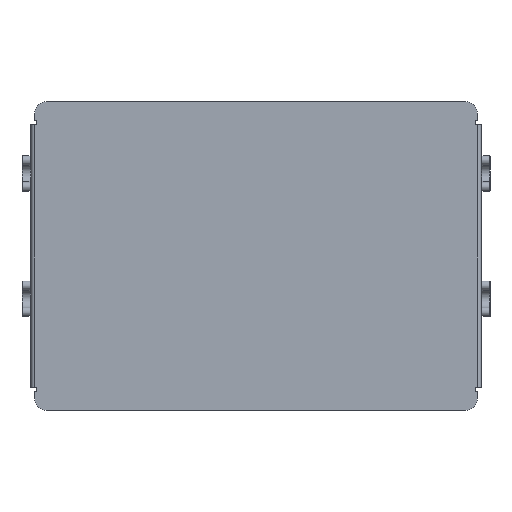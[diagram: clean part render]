
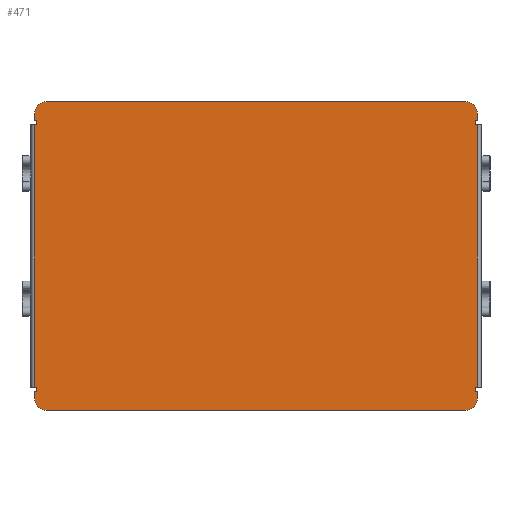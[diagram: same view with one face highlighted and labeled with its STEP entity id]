
A CAD part, top view. The second image highlights one B-rep face of the part: STEP entity #471.
In plain terms, the highlighted planar face has unit normal (0, 0, 1).
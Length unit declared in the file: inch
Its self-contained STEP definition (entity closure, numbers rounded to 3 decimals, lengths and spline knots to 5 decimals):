
#241=CARTESIAN_POINT('',(-4.613,0.0,0.09));
#242=VERTEX_POINT('',#241);
#243=CARTESIAN_POINT('',(-4.863,0.25,0.09));
#244=VERTEX_POINT('',#243);
#245=CARTESIAN_POINT('',(-4.613,0.25,0.09));
#246=DIRECTION('',(0.0,0.0,-1.));
#247=DIRECTION('',(-0.707,-0.707,0.0));
#248=AXIS2_PLACEMENT_3D('',#245,#246,#247);
#249=CIRCLE('',#248,0.25);
#250=EDGE_CURVE('',#242,#244,#249,.T.);
#278=CARTESIAN_POINT('',(0.,3.3875,0.09));
#279=DIRECTION('',(0.0,0.0,1.0));
#280=DIRECTION('',(1.0,0.0,0.0));
#281=AXIS2_PLACEMENT_3D('',#278,#279,#280);
#282=PLANE('',#281);
#283=ORIENTED_EDGE('',*,*,#250,.F.);
#284=CARTESIAN_POINT('',(4.613,0.0,0.09));
#285=VERTEX_POINT('',#284);
#286=CARTESIAN_POINT('',(4.613,0.0,0.09));
#287=DIRECTION('',(-1.0,0.0,0.0));
#288=VECTOR('',#287,9.226);
#289=LINE('',#286,#288);
#290=EDGE_CURVE('',#285,#242,#289,.T.);
#291=ORIENTED_EDGE('',*,*,#290,.F.);
#292=CARTESIAN_POINT('',(4.863,0.25,0.09));
#293=VERTEX_POINT('',#292);
#294=CARTESIAN_POINT('',(4.613,0.25,0.09));
#295=DIRECTION('',(0.0,0.0,-1.));
#296=DIRECTION('',(0.707,-0.707,0.0));
#297=AXIS2_PLACEMENT_3D('',#294,#295,#296);
#298=CIRCLE('',#297,0.25);
#299=EDGE_CURVE('',#293,#285,#298,.T.);
#300=ORIENTED_EDGE('',*,*,#299,.F.);
#301=CARTESIAN_POINT('',(4.863,0.41,0.09));
#302=VERTEX_POINT('',#301);
#303=CARTESIAN_POINT('',(4.863,0.41,0.09));
#304=DIRECTION('',(0.0,-1.0,0.0));
#305=VECTOR('',#304,0.16);
#306=LINE('',#303,#305);
#307=EDGE_CURVE('',#302,#293,#306,.T.);
#308=ORIENTED_EDGE('',*,*,#307,.F.);
#309=CARTESIAN_POINT('',(4.817,0.41,0.09));
#310=VERTEX_POINT('',#309);
#311=CARTESIAN_POINT('',(4.863,0.41,0.09));
#312=DIRECTION('',(-1.0,0.0,0.0));
#313=VECTOR('',#312,0.046);
#314=LINE('',#311,#313);
#315=EDGE_CURVE('',#302,#310,#314,.T.);
#316=ORIENTED_EDGE('',*,*,#315,.T.);
#317=CARTESIAN_POINT('',(4.817,0.5,0.09));
#318=VERTEX_POINT('',#317);
#319=CARTESIAN_POINT('',(4.817,0.41,0.09));
#320=DIRECTION('',(0.0,1.0,0.0));
#321=VECTOR('',#320,0.09);
#322=LINE('',#319,#321);
#323=EDGE_CURVE('',#310,#318,#322,.T.);
#324=ORIENTED_EDGE('',*,*,#323,.T.);
#325=CARTESIAN_POINT('',(4.862,0.5,0.09));
#326=VERTEX_POINT('',#325);
#327=CARTESIAN_POINT('',(4.817,0.5,0.09));
#328=DIRECTION('',(1.0,0.0,0.0));
#329=VECTOR('',#328,0.045);
#330=LINE('',#327,#329);
#331=EDGE_CURVE('',#318,#326,#330,.T.);
#332=ORIENTED_EDGE('',*,*,#331,.T.);
#333=CARTESIAN_POINT('',(4.862,6.275,0.09));
#334=VERTEX_POINT('',#333);
#335=CARTESIAN_POINT('',(4.862,0.5,0.09));
#336=DIRECTION('',(0.0,1.0,0.0));
#337=VECTOR('',#336,5.775);
#338=LINE('',#335,#337);
#339=EDGE_CURVE('',#326,#334,#338,.T.);
#340=ORIENTED_EDGE('',*,*,#339,.T.);
#341=CARTESIAN_POINT('',(4.817,6.275,0.09));
#342=VERTEX_POINT('',#341);
#343=CARTESIAN_POINT('',(4.862,6.275,0.09));
#344=DIRECTION('',(-1.0,0.0,0.0));
#345=VECTOR('',#344,0.045);
#346=LINE('',#343,#345);
#347=EDGE_CURVE('',#334,#342,#346,.T.);
#348=ORIENTED_EDGE('',*,*,#347,.T.);
#349=CARTESIAN_POINT('',(4.817,6.365,0.09));
#350=VERTEX_POINT('',#349);
#351=CARTESIAN_POINT('',(4.817,6.275,0.09));
#352=DIRECTION('',(0.0,1.0,0.0));
#353=VECTOR('',#352,0.09);
#354=LINE('',#351,#353);
#355=EDGE_CURVE('',#342,#350,#354,.T.);
#356=ORIENTED_EDGE('',*,*,#355,.T.);
#357=CARTESIAN_POINT('',(4.863,6.365,0.09));
#358=VERTEX_POINT('',#357);
#359=CARTESIAN_POINT('',(4.817,6.365,0.09));
#360=DIRECTION('',(1.0,0.0,0.0));
#361=VECTOR('',#360,0.046);
#362=LINE('',#359,#361);
#363=EDGE_CURVE('',#350,#358,#362,.T.);
#364=ORIENTED_EDGE('',*,*,#363,.T.);
#365=CARTESIAN_POINT('',(4.863,6.525,0.09));
#366=VERTEX_POINT('',#365);
#367=CARTESIAN_POINT('',(4.863,6.525,0.09));
#368=DIRECTION('',(0.0,-1.0,0.0));
#369=VECTOR('',#368,0.16);
#370=LINE('',#367,#369);
#371=EDGE_CURVE('',#366,#358,#370,.T.);
#372=ORIENTED_EDGE('',*,*,#371,.F.);
#373=CARTESIAN_POINT('',(4.613,6.775,0.09));
#374=VERTEX_POINT('',#373);
#375=CARTESIAN_POINT('',(4.613,6.525,0.09));
#376=DIRECTION('',(0.0,0.0,-1.));
#377=DIRECTION('',(0.707,0.707,0.0));
#378=AXIS2_PLACEMENT_3D('',#375,#376,#377);
#379=CIRCLE('',#378,0.25);
#380=EDGE_CURVE('',#374,#366,#379,.T.);
#381=ORIENTED_EDGE('',*,*,#380,.F.);
#382=CARTESIAN_POINT('',(-4.613,6.775,0.09));
#383=VERTEX_POINT('',#382);
#384=CARTESIAN_POINT('',(-4.613,6.775,0.09));
#385=DIRECTION('',(1.0,0.0,0.0));
#386=VECTOR('',#385,9.226);
#387=LINE('',#384,#386);
#388=EDGE_CURVE('',#383,#374,#387,.T.);
#389=ORIENTED_EDGE('',*,*,#388,.F.);
#390=CARTESIAN_POINT('',(-4.863,6.525,0.09));
#391=VERTEX_POINT('',#390);
#392=CARTESIAN_POINT('',(-4.613,6.525,0.09));
#393=DIRECTION('',(0.0,0.0,-1.));
#394=DIRECTION('',(-0.707,0.707,0.0));
#395=AXIS2_PLACEMENT_3D('',#392,#393,#394);
#396=CIRCLE('',#395,0.25);
#397=EDGE_CURVE('',#391,#383,#396,.T.);
#398=ORIENTED_EDGE('',*,*,#397,.F.);
#399=CARTESIAN_POINT('',(-4.863,6.365,0.09));
#400=VERTEX_POINT('',#399);
#401=CARTESIAN_POINT('',(-4.863,6.365,0.09));
#402=DIRECTION('',(0.0,1.0,0.0));
#403=VECTOR('',#402,0.16);
#404=LINE('',#401,#403);
#405=EDGE_CURVE('',#400,#391,#404,.T.);
#406=ORIENTED_EDGE('',*,*,#405,.F.);
#407=CARTESIAN_POINT('',(-4.817,6.365,0.09));
#408=VERTEX_POINT('',#407);
#409=CARTESIAN_POINT('',(-4.863,6.365,0.09));
#410=DIRECTION('',(1.0,0.0,0.0));
#411=VECTOR('',#410,0.046);
#412=LINE('',#409,#411);
#413=EDGE_CURVE('',#400,#408,#412,.T.);
#414=ORIENTED_EDGE('',*,*,#413,.T.);
#415=CARTESIAN_POINT('',(-4.817,6.275,0.09));
#416=VERTEX_POINT('',#415);
#417=CARTESIAN_POINT('',(-4.817,6.365,0.09));
#418=DIRECTION('',(0.0,-1.0,0.0));
#419=VECTOR('',#418,0.09);
#420=LINE('',#417,#419);
#421=EDGE_CURVE('',#408,#416,#420,.T.);
#422=ORIENTED_EDGE('',*,*,#421,.T.);
#423=CARTESIAN_POINT('',(-4.862,6.275,0.09));
#424=VERTEX_POINT('',#423);
#425=CARTESIAN_POINT('',(-4.817,6.275,0.09));
#426=DIRECTION('',(-1.0,0.0,0.0));
#427=VECTOR('',#426,0.045);
#428=LINE('',#425,#427);
#429=EDGE_CURVE('',#416,#424,#428,.T.);
#430=ORIENTED_EDGE('',*,*,#429,.T.);
#431=CARTESIAN_POINT('',(-4.862,0.5,0.09));
#432=VERTEX_POINT('',#431);
#433=CARTESIAN_POINT('',(-4.862,6.275,0.09));
#434=DIRECTION('',(0.0,-1.0,0.0));
#435=VECTOR('',#434,5.775);
#436=LINE('',#433,#435);
#437=EDGE_CURVE('',#424,#432,#436,.T.);
#438=ORIENTED_EDGE('',*,*,#437,.T.);
#439=CARTESIAN_POINT('',(-4.817,0.5,0.09));
#440=VERTEX_POINT('',#439);
#441=CARTESIAN_POINT('',(-4.862,0.5,0.09));
#442=DIRECTION('',(1.0,0.0,0.0));
#443=VECTOR('',#442,0.045);
#444=LINE('',#441,#443);
#445=EDGE_CURVE('',#432,#440,#444,.T.);
#446=ORIENTED_EDGE('',*,*,#445,.T.);
#447=CARTESIAN_POINT('',(-4.817,0.41,0.09));
#448=VERTEX_POINT('',#447);
#449=CARTESIAN_POINT('',(-4.817,0.5,0.09));
#450=DIRECTION('',(0.0,-1.0,0.0));
#451=VECTOR('',#450,0.09);
#452=LINE('',#449,#451);
#453=EDGE_CURVE('',#440,#448,#452,.T.);
#454=ORIENTED_EDGE('',*,*,#453,.T.);
#455=CARTESIAN_POINT('',(-4.863,0.41,0.09));
#456=VERTEX_POINT('',#455);
#457=CARTESIAN_POINT('',(-4.817,0.41,0.09));
#458=DIRECTION('',(-1.0,0.0,0.0));
#459=VECTOR('',#458,0.046);
#460=LINE('',#457,#459);
#461=EDGE_CURVE('',#448,#456,#460,.T.);
#462=ORIENTED_EDGE('',*,*,#461,.T.);
#463=CARTESIAN_POINT('',(-4.863,0.25,0.09));
#464=DIRECTION('',(0.0,1.0,0.0));
#465=VECTOR('',#464,0.16);
#466=LINE('',#463,#465);
#467=EDGE_CURVE('',#244,#456,#466,.T.);
#468=ORIENTED_EDGE('',*,*,#467,.F.);
#469=EDGE_LOOP('',(#283,#291,#300,#308,#316,#324,#332,#340,#348,#356,#364,#372,#381,#389,#398,#406,#414,#422,#430,#438,#446,#454,#462,#468));
#470=FACE_OUTER_BOUND('',#469,.T.);
#471=ADVANCED_FACE('',(#470),#282,.T.);
